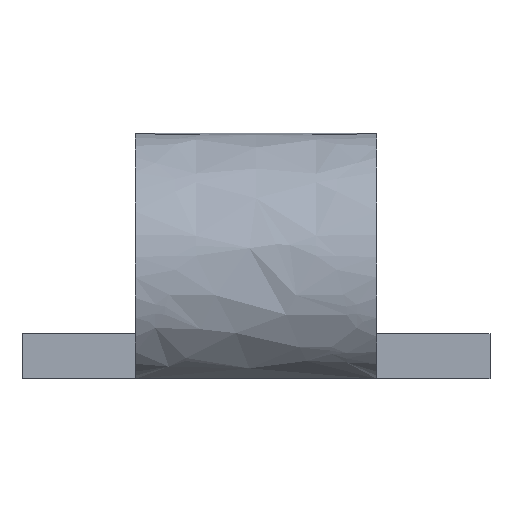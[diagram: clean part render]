
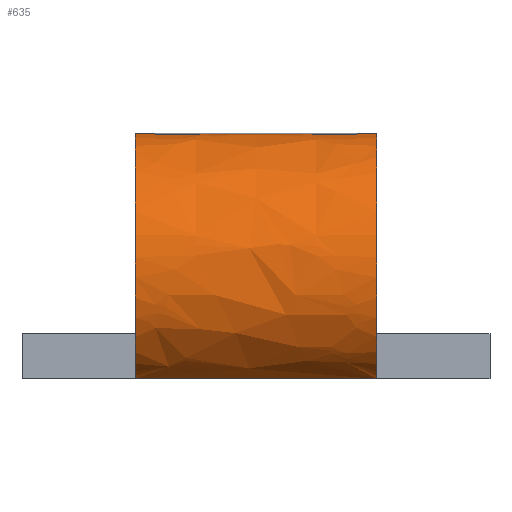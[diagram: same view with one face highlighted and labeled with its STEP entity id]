
A CAD part, left-side view. The second image highlights one B-rep face of the part: STEP entity #635.
In plain terms, the highlighted free-form (B-spline) face has degree [5, 1] with [6, 2] control points.
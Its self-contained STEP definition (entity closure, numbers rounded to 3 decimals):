
#7 = VERTEX_POINT ( 'NONE', #433 ) ;
#14 = CARTESIAN_POINT ( 'NONE',  ( -7.738, -8.681, 10.002 ) ) ;
#21 = CARTESIAN_POINT ( 'NONE',  ( -5.258, -8.681, 3.561 ) ) ;
#34 = CARTESIAN_POINT ( 'NONE',  ( -7.738, -0.681, 10.002 ) ) ;
#71 = VERTEX_POINT ( 'NONE', #524 ) ;
#76 = CARTESIAN_POINT ( 'NONE',  ( -8.157, -8.681, 7.714 ) ) ;
#89 = CARTESIAN_POINT ( 'NONE',  ( -16.836, -0.681, 1.287 ) ) ;
#114 = EDGE_CURVE ( 'NONE', #7, #767, #779, .T. ) ;
#139 = CARTESIAN_POINT ( 'NONE',  ( -7.738, -8.681, 10.002 ) ) ;
#168 = CARTESIAN_POINT ( 'NONE',  ( -17.412, -8.681, 10.037 ) ) ;
#194 = CARTESIAN_POINT ( 'NONE',  ( -5.258, -8.681, 3.561 ) ) ;
#199 = CARTESIAN_POINT ( 'NONE',  ( -17.412, -8.681, 10.037 ) ) ;
#207 = B_SPLINE_CURVE_WITH_KNOTS ( 'NONE', 5,
 ( #752, #323, #14, #168, #607, #231 ),
 .UNSPECIFIED., .F., .F.,
 ( 6, 6 ),
 ( 0., 1. ),
 .UNSPECIFIED. ) ;
#216 = ORIENTED_EDGE ( 'NONE', *, *, #114, .T. ) ;
#221 = ORIENTED_EDGE ( 'NONE', *, *, #289, .F. ) ;
#231 = CARTESIAN_POINT ( 'NONE',  ( -13.319, -8.681, 0. ) ) ;
#242 = ORIENTED_EDGE ( 'NONE', *, *, #472, .T. ) ;
#253 = FACE_OUTER_BOUND ( 'NONE', #448, .T. ) ;
#267 = CARTESIAN_POINT ( 'NONE',  ( -16.836, -8.681, 1.287 ) ) ;
#277 = CARTESIAN_POINT ( 'NONE',  ( -8.157, -0.681, 7.714 ) ) ;
#289 = EDGE_CURVE ( 'NONE', #71, #367, #608, .T. ) ;
#322 = ORIENTED_EDGE ( 'NONE', *, *, #386, .F. ) ;
#323 = CARTESIAN_POINT ( 'NONE',  ( -8.157, -8.681, 7.714 ) ) ;
#331 = CARTESIAN_POINT ( 'NONE',  ( -13.319, -8.681, 0. ) ) ;
#367 = VERTEX_POINT ( 'NONE', #194 ) ;
#380 = DIRECTION ( 'NONE',  ( 0., -1., 0. ) ) ;
#386 = EDGE_CURVE ( 'NONE', #367, #767, #207, .T. ) ;
#389 = CARTESIAN_POINT ( 'NONE',  ( -5.258, -0.681, 3.561 ) ) ;
#412 = B_SPLINE_SURFACE_WITH_KNOTS ( 'NONE', 5, 1, ( 
 ( #389, #21 ),
 ( #451, #76 ),
 ( #514, #139 ),
 ( #574, #199 ),
 ( #641, #267 ),
 ( #701, #331 ) ),
 .UNSPECIFIED., .F., .F., .F.,
 ( 6, 6 ),
 ( 2, 2 ),
 ( 0., 1. ),
 ( 0., 1. ),
 .UNSPECIFIED. ) ;
#433 = CARTESIAN_POINT ( 'NONE',  ( -13.319, -0.681, 0. ) ) ;
#448 = EDGE_LOOP ( 'NONE', ( #322, #221, #242, #216 ) ) ;
#451 = CARTESIAN_POINT ( 'NONE',  ( -8.157, -0.681, 7.714 ) ) ;
#467 = CARTESIAN_POINT ( 'NONE',  ( -17.412, -0.681, 10.037 ) ) ;
#468 = CARTESIAN_POINT ( 'NONE',  ( -5.258, -0.681, 3.561 ) ) ;
#472 = EDGE_CURVE ( 'NONE', #71, #7, #582, .T. ) ;
#513 = CARTESIAN_POINT ( 'NONE',  ( -13.319, -8.681, 0. ) ) ;
#514 = CARTESIAN_POINT ( 'NONE',  ( -7.738, -0.681, 10.002 ) ) ;
#524 = CARTESIAN_POINT ( 'NONE',  ( -5.258, -0.681, 3.561 ) ) ;
#528 = CARTESIAN_POINT ( 'NONE',  ( -13.319, -0.681, 0. ) ) ;
#574 = CARTESIAN_POINT ( 'NONE',  ( -17.412, -0.681, 10.037 ) ) ;
#582 = B_SPLINE_CURVE_WITH_KNOTS ( 'NONE', 5,
 ( #768, #277, #34, #467, #89, #528 ),
 .UNSPECIFIED., .F., .F.,
 ( 6, 6 ),
 ( 0., 1. ),
 .UNSPECIFIED. ) ;
#591 = DIRECTION ( 'NONE',  ( 0., -1., 0. ) ) ;
#607 = CARTESIAN_POINT ( 'NONE',  ( -16.836, -8.681, 1.287 ) ) ;
#608 = LINE ( 'NONE', #468, #745 ) ;
#635 = ADVANCED_FACE ( 'NONE', ( #253 ), #412, .T. ) ;
#641 = CARTESIAN_POINT ( 'NONE',  ( -16.836, -0.681, 1.287 ) ) ;
#688 = CARTESIAN_POINT ( 'NONE',  ( -13.319, -0.681, 0. ) ) ;
#701 = CARTESIAN_POINT ( 'NONE',  ( -13.319, -0.681, 0. ) ) ;
#745 = VECTOR ( 'NONE', #591, 1000. ) ;
#752 = CARTESIAN_POINT ( 'NONE',  ( -5.258, -8.681, 3.561 ) ) ;
#759 = VECTOR ( 'NONE', #380, 1000. ) ;
#767 = VERTEX_POINT ( 'NONE', #513 ) ;
#768 = CARTESIAN_POINT ( 'NONE',  ( -5.258, -0.681, 3.561 ) ) ;
#779 = LINE ( 'NONE', #688, #759 ) ;
